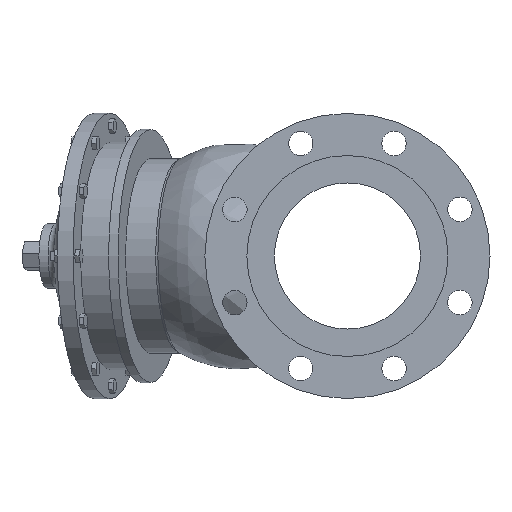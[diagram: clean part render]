
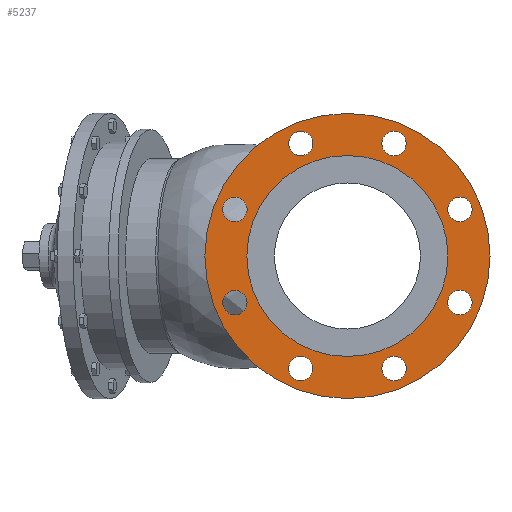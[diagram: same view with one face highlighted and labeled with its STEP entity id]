
A CAD part, left-side view. The second image highlights one B-rep face of the part: STEP entity #5237.
In plain terms, the highlighted planar face has unit normal (-1, 0, 0).
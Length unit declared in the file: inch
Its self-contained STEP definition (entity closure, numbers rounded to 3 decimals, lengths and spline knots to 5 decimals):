
#256=PLANE('',#5609);
#303=FACE_BOUND('',#960,.T.);
#304=FACE_BOUND('',#961,.T.);
#305=FACE_BOUND('',#962,.T.);
#306=FACE_BOUND('',#963,.T.);
#307=FACE_BOUND('',#964,.T.);
#308=FACE_BOUND('',#965,.T.);
#309=FACE_BOUND('',#966,.T.);
#310=FACE_BOUND('',#967,.T.);
#311=FACE_BOUND('',#968,.T.);
#653=FACE_OUTER_BOUND('',#959,.T.);
#959=EDGE_LOOP('',(#4608,#4609));
#960=EDGE_LOOP('',(#4610));
#961=EDGE_LOOP('',(#4611));
#962=EDGE_LOOP('',(#4612));
#963=EDGE_LOOP('',(#4613));
#964=EDGE_LOOP('',(#4614));
#965=EDGE_LOOP('',(#4615));
#966=EDGE_LOOP('',(#4616));
#967=EDGE_LOOP('',(#4617));
#968=EDGE_LOOP('',(#4618,#4619));
#2058=CIRCLE('',#5266,0.375);
#2060=CIRCLE('',#5269,0.375);
#2062=CIRCLE('',#5272,0.375);
#2064=CIRCLE('',#5275,0.375);
#2066=CIRCLE('',#5278,0.375);
#2068=CIRCLE('',#5281,0.375);
#2070=CIRCLE('',#5284,0.375);
#2072=CIRCLE('',#5287,0.375);
#2153=CIRCLE('',#5607,3.095);
#2154=CIRCLE('',#5608,3.095);
#2155=CIRCLE('',#5610,4.39);
#2156=CIRCLE('',#5611,4.39);
#2167=VERTEX_POINT('',#6927);
#2169=VERTEX_POINT('',#6933);
#2171=VERTEX_POINT('',#6939);
#2173=VERTEX_POINT('',#6945);
#2175=VERTEX_POINT('',#6951);
#2177=VERTEX_POINT('',#6957);
#2179=VERTEX_POINT('',#6963);
#2181=VERTEX_POINT('',#6969);
#2618=VERTEX_POINT('',#9451);
#2619=VERTEX_POINT('',#9452);
#2620=VERTEX_POINT('',#9457);
#2621=VERTEX_POINT('',#9458);
#2632=EDGE_CURVE('',#2167,#2167,#2058,.T.);
#2635=EDGE_CURVE('',#2169,#2169,#2060,.T.);
#2638=EDGE_CURVE('',#2171,#2171,#2062,.T.);
#2641=EDGE_CURVE('',#2173,#2173,#2064,.T.);
#2644=EDGE_CURVE('',#2175,#2175,#2066,.T.);
#2647=EDGE_CURVE('',#2177,#2177,#2068,.T.);
#2650=EDGE_CURVE('',#2179,#2179,#2070,.T.);
#2653=EDGE_CURVE('',#2181,#2181,#2072,.T.);
#3296=EDGE_CURVE('',#2618,#2619,#2153,.T.);
#3297=EDGE_CURVE('',#2619,#2618,#2154,.T.);
#3299=EDGE_CURVE('',#2620,#2621,#2155,.T.);
#3300=EDGE_CURVE('',#2621,#2620,#2156,.T.);
#4608=ORIENTED_EDGE('',*,*,#3299,.F.);
#4609=ORIENTED_EDGE('',*,*,#3300,.F.);
#4610=ORIENTED_EDGE('',*,*,#2632,.T.);
#4611=ORIENTED_EDGE('',*,*,#2635,.T.);
#4612=ORIENTED_EDGE('',*,*,#2638,.T.);
#4613=ORIENTED_EDGE('',*,*,#2641,.T.);
#4614=ORIENTED_EDGE('',*,*,#2644,.T.);
#4615=ORIENTED_EDGE('',*,*,#2647,.T.);
#4616=ORIENTED_EDGE('',*,*,#2650,.T.);
#4617=ORIENTED_EDGE('',*,*,#2653,.T.);
#4618=ORIENTED_EDGE('',*,*,#3296,.T.);
#4619=ORIENTED_EDGE('',*,*,#3297,.T.);
#5237=ADVANCED_FACE('',(#653,#303,#304,#305,#306,#307,#308,#309,#310,#311),
#256,.T.);
#5266=AXIS2_PLACEMENT_3D('',#6928,#5646,#5647);
#5269=AXIS2_PLACEMENT_3D('',#6934,#5653,#5654);
#5272=AXIS2_PLACEMENT_3D('',#6940,#5660,#5661);
#5275=AXIS2_PLACEMENT_3D('',#6946,#5667,#5668);
#5278=AXIS2_PLACEMENT_3D('',#6952,#5674,#5675);
#5281=AXIS2_PLACEMENT_3D('',#6958,#5681,#5682);
#5284=AXIS2_PLACEMENT_3D('',#6964,#5688,#5689);
#5287=AXIS2_PLACEMENT_3D('',#6970,#5695,#5696);
#5607=AXIS2_PLACEMENT_3D('',#9453,#6851,#6852);
#5608=AXIS2_PLACEMENT_3D('',#9454,#6853,#6854);
#5609=AXIS2_PLACEMENT_3D('',#9456,#6856,#6857);
#5610=AXIS2_PLACEMENT_3D('',#9459,#6858,#6859);
#5611=AXIS2_PLACEMENT_3D('',#9460,#6860,#6861);
#5646=DIRECTION('center_axis',(1.,0.,0.));
#5647=DIRECTION('ref_axis',(0.,0.707,0.707));
#5653=DIRECTION('center_axis',(1.,0.,0.));
#5654=DIRECTION('ref_axis',(0.,1.,0.));
#5660=DIRECTION('center_axis',(1.,0.,0.));
#5661=DIRECTION('ref_axis',(0.,0.707,-0.707));
#5667=DIRECTION('center_axis',(1.,0.,0.));
#5668=DIRECTION('ref_axis',(0.,0.,-1.));
#5674=DIRECTION('center_axis',(1.,0.,0.));
#5675=DIRECTION('ref_axis',(0.,-0.707,-0.707));
#5681=DIRECTION('center_axis',(1.,0.,0.));
#5682=DIRECTION('ref_axis',(0.,-1.,0.));
#5688=DIRECTION('center_axis',(1.,0.,0.));
#5689=DIRECTION('ref_axis',(0.,-0.707,0.707));
#5695=DIRECTION('center_axis',(1.,0.,0.));
#5696=DIRECTION('ref_axis',(0.,0.,1.));
#6851=DIRECTION('center_axis',(1.,0.,0.));
#6852=DIRECTION('ref_axis',(0.,0.,-1.));
#6853=DIRECTION('center_axis',(1.,0.,0.));
#6854=DIRECTION('ref_axis',(0.,0.,-1.));
#6856=DIRECTION('center_axis',(-1.,0.,0.));
#6857=DIRECTION('ref_axis',(0.,0.,1.));
#6858=DIRECTION('center_axis',(1.,0.,0.));
#6859=DIRECTION('ref_axis',(0.,0.,-1.));
#6860=DIRECTION('center_axis',(1.,0.,0.));
#6861=DIRECTION('ref_axis',(0.,0.,-1.));
#6927=CARTESIAN_POINT('',(-6.24,1.1699,-3.72971));
#6928=CARTESIAN_POINT('Origin',(-6.24,1.43506,-3.46455));
#6933=CARTESIAN_POINT('',(-6.24,-1.81006,-3.46455));
#6934=CARTESIAN_POINT('Origin',(-6.24,-1.43506,-3.46455));
#6939=CARTESIAN_POINT('',(-6.24,-3.72971,-1.1699));
#6940=CARTESIAN_POINT('Origin',(-6.24,-3.46455,-1.43506));
#6945=CARTESIAN_POINT('',(-6.24,-3.46455,1.81006));
#6946=CARTESIAN_POINT('Origin',(-6.24,-3.46455,1.43506));
#6951=CARTESIAN_POINT('',(-6.24,-1.1699,3.72971));
#6952=CARTESIAN_POINT('Origin',(-6.24,-1.43506,3.46455));
#6957=CARTESIAN_POINT('',(-6.24,1.81006,3.46455));
#6958=CARTESIAN_POINT('Origin',(-6.24,1.43506,3.46455));
#6963=CARTESIAN_POINT('',(-6.24,3.72971,1.1699));
#6964=CARTESIAN_POINT('Origin',(-6.24,3.46455,1.43506));
#6969=CARTESIAN_POINT('',(-6.24,3.46455,-1.81006));
#6970=CARTESIAN_POINT('Origin',(-6.24,3.46455,-1.43506));
#9451=CARTESIAN_POINT('',(-6.24,3.095,0.));
#9452=CARTESIAN_POINT('',(-6.24,-3.095,0.));
#9453=CARTESIAN_POINT('Origin',(-6.24,0.,0.));
#9454=CARTESIAN_POINT('Origin',(-6.24,0.,0.));
#9456=CARTESIAN_POINT('Origin',(-6.24,4.39,0.));
#9457=CARTESIAN_POINT('',(-6.24,4.39,0.));
#9458=CARTESIAN_POINT('',(-6.24,-4.39,0.));
#9459=CARTESIAN_POINT('Origin',(-6.24,0.,0.));
#9460=CARTESIAN_POINT('Origin',(-6.24,0.,0.));
